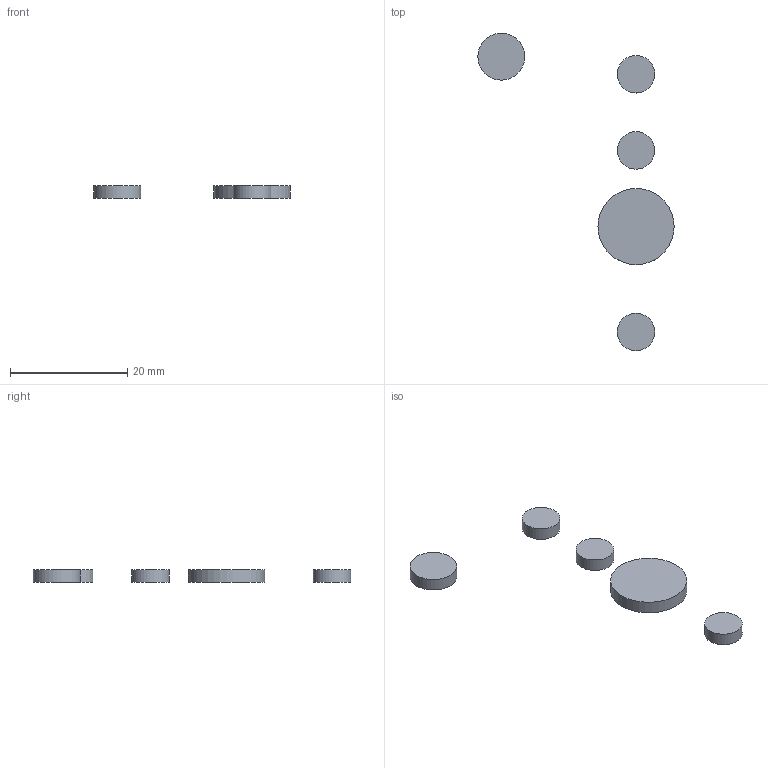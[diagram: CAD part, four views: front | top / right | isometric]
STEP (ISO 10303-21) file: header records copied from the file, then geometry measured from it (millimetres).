
FILE_DESCRIPTION(('Open CASCADE Model'),'2;1');
FILE_NAME('Open CASCADE Shape Model','2026-11-05T01:23:31',('Author'),( 'Open CASCADE'),'Open CASCADE STEP processor 7.8','Open CASCADE 7.8' ,'Unknown');
FILE_SCHEMA(('AUTOMOTIVE_DESIGN { 1 0 10303 214 1 1 1 1 }'));
Length unit declared in the file: millimetre
Products named in the file (6): Open CASCADE STEP translator 7.8 23; Open CASCADE STEP translator 7.8 23.1; Open CASCADE STEP translator 7.8 23.2; Open CASCADE STEP translator 7.8 23.3; Open CASCADE STEP translator 7.8 23.4; Open CASCADE STEP translator 7.8 23.5
Assembly tree (5 placements, depth 2):
  Open CASCADE STEP translator 7.8 23
    Open CASCADE STEP translator 7.8 23.1
    Open CASCADE STEP translator 7.8 23.2
    Open CASCADE STEP translator 7.8 23.3
    Open CASCADE STEP translator 7.8 23.4
    Open CASCADE STEP translator 7.8 23.5
Bounding box: 33.5 x 54.2 x 2.2 mm (x, y, z)
Volume: 614.9 mm3; surface area: 836.9 mm2
Topology: 5 solids, 5 shells, 15 faces, 15 edges, 10 vertices
Faces by surface type: plane 10, cylinder 5
Full cylindrical faces by diameter (mm): 6.4 x3, 8 x1, 13 x1
Entity records: 596 total; most frequent: CARTESIAN_POINT 136, DIRECTION 87, AXIS2_PLACEMENT_3D 31, ORIENTED_EDGE 30, PCURVE 30, DEFINITIONAL_REPRESENTATION 30, LINE 25, VECTOR 25
